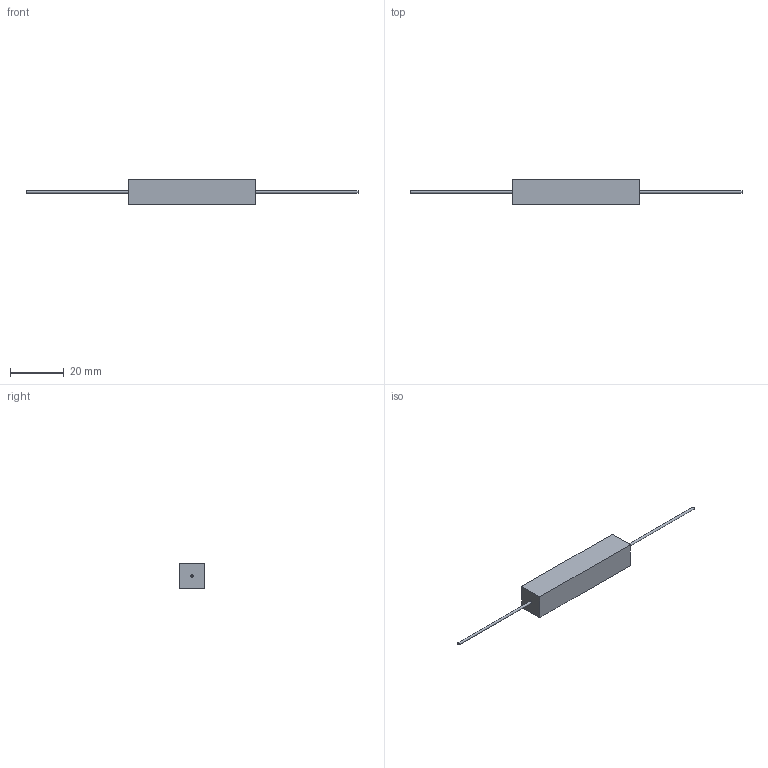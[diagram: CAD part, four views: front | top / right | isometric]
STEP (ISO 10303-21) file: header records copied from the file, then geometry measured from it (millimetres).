
FILE_DESCRIPTION(/* description */ (''),/* implementation_level */ '2;1');
FILE_NAME(/* name */ 'C:\Users\mulla\Documents\SEI Models\Inventor Files\WCB_WCBF_NWCB\WCB10_stp.stp',/* time_stamp */ '2019-07-04T16:27:59-04:00',/* author */ ('mulla'),/* organization */ (''),/* preprocessor_version */ 'ST-DEVELOPER v16.1',/* originating_system */ 'Autodesk Inventor 2016',/* authorisation */ '');
FILE_SCHEMA (('AUTOMOTIVE_DESIGN { 1 0 10303 214 3 1 1 }'));
Length unit declared in the file: millimetre
Products named in the file (1): WCB10
Bounding box: 123.83 x 9.53 x 9.53 mm (x, y, z)
Volume: 4375.4 mm3; surface area: 2217.7 mm2
Topology: 3 solids, 3 shells, 12 faces, 18 edges, 12 vertices
Faces by surface type: plane 10, cylinder 2
Full cylindrical faces by diameter (mm): 0.91 x2
Entity records: 304 total; most frequent: DIRECTION 46, CARTESIAN_POINT 41, ORIENTED_EDGE 32, AXIS2_PLACEMENT_3D 17, EDGE_CURVE 16, STYLED_ITEM 15, EDGE_LOOP 14, FACE_OUTER_BOUND 12
